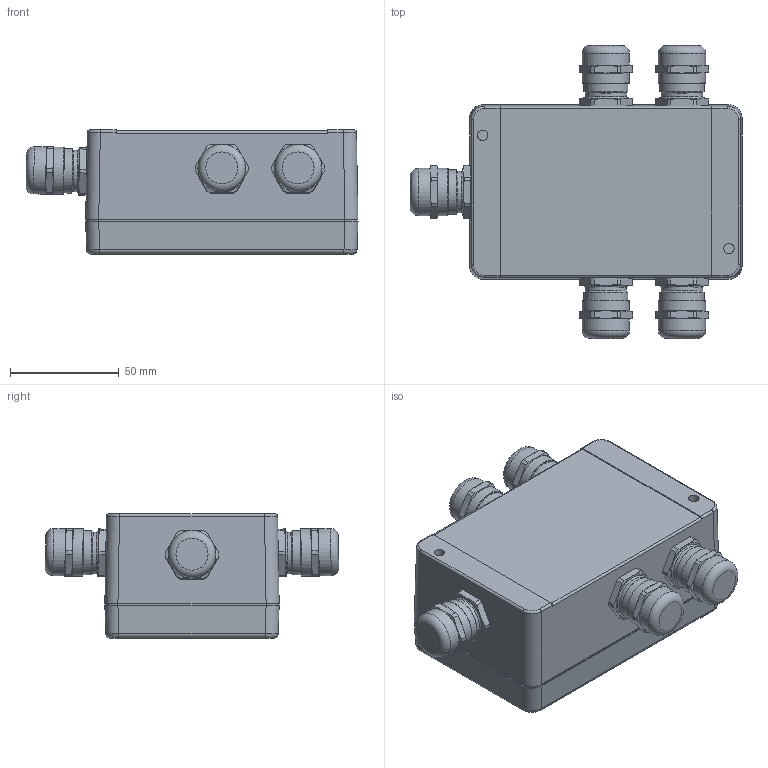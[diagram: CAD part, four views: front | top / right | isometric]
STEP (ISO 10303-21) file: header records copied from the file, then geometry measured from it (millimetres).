
FILE_DESCRIPTION(/* description */ ('FS12'),/* implementation_level */ '2;1');
FILE_NAME(/* name */ 'C:\Users\tokti\AppData\Local\Temp\kfaozayx.pvv\2878010012285.stp',/* time_stamp */ '2023-05-09T16:38:09+02:00',/* author */ ('thp'),/* organization */ (''),/* preprocessor_version */ 'ST-DEVELOPER v18.1',/* originating_system */ 'Autodesk Inventor 2020',/* authorisation */ '');
FILE_SCHEMA (('AUTOMOTIVE_DESIGN { 1 0 10303 214 3 1 1 }'));
Length unit declared in the file: millimetre
Products named in the file (4): 2878010012285; 287898010012283; 287898030012282; 287898990012284
Assembly tree (7 placements, depth 2):
  2878010012285
    287898010012283
    287898030012282  x5
    287898990012284
Bounding box: 152.38 x 134.72 x 57.02 mm (x, y, z)
Volume: 221241.7 mm3; surface area: 113441.9 mm2
Topology: 12 solids, 12 shells, 1370 faces, 3522 edges, 2283 vertices
Faces by surface type: plane 617, bspline 313, cylinder 193, cone 183, torus 64
Full cylindrical faces by diameter (mm): 2.87 x4, 3.2 x4, 4 x4, 4.5 x1, 4.8 x2, 7 x4, 8 x2, 18.3 x5, 18.96 x5, 19.85 x5, 20.3 x5, 21.7 x10
Entity records: 39472 total; most frequent: CARTESIAN_POINT 12845, ORIENTED_EDGE 5824, DIRECTION 4359, EDGE_CURVE 2912, VERTEX_POINT 1903, LINE 1687, VECTOR 1687, AXIS2_PLACEMENT_3D 1336
